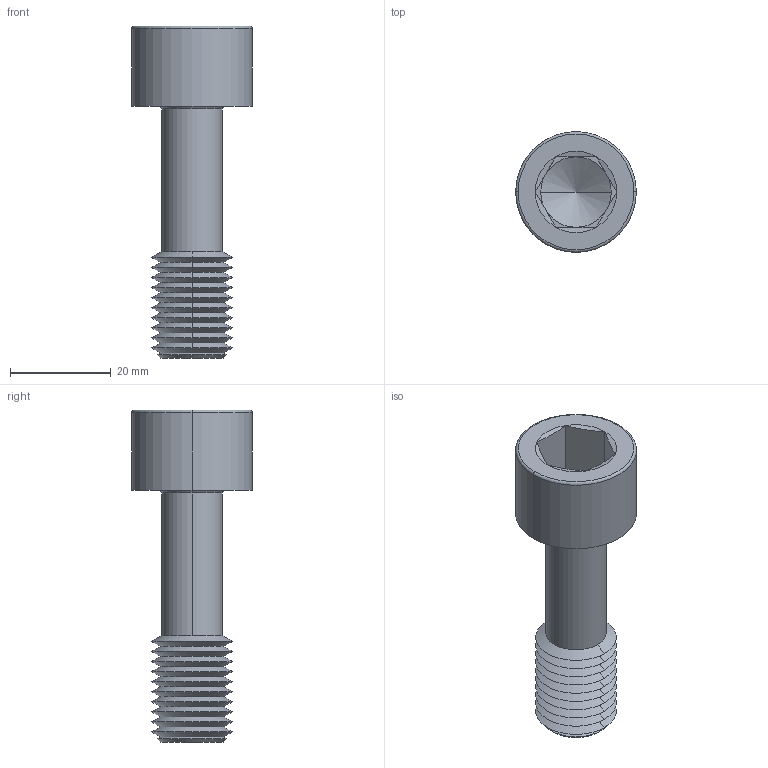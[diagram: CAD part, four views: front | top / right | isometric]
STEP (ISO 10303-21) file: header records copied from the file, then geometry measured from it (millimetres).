
FILE_DESCRIPTION (( 'STEP AP203' ), '1' );
FILE_NAME ('P0154.160-050-BL.step', '2024-06-17T11:38:47', ( '' ), ( '' ), 'SwSTEP 2.0', 'SolidWorks 2019', '' );
FILE_SCHEMA (( 'CONFIG_CONTROL_DESIGN' ));
Length unit declared in the file: millimetre
Products named in the file (1): P0154.160-050-BL
Bounding box: 24 x 24 x 66 mm (x, y, z)
Volume: 11279.1 mm3; surface area: 5752.4 mm2
Topology: 1 solids, 1 shells, 75 faces, 152 edges, 79 vertices
Faces by surface type: cone 52, plane 15, torus 4, cylinder 4
Entity records: 1991 total; most frequent: DIRECTION 372, CARTESIAN_POINT 335, ORIENTED_EDGE 300, AXIS2_PLACEMENT_3D 152, EDGE_CURVE 150, VERTEX_POINT 79, EDGE_LOOP 77, CIRCLE 76
